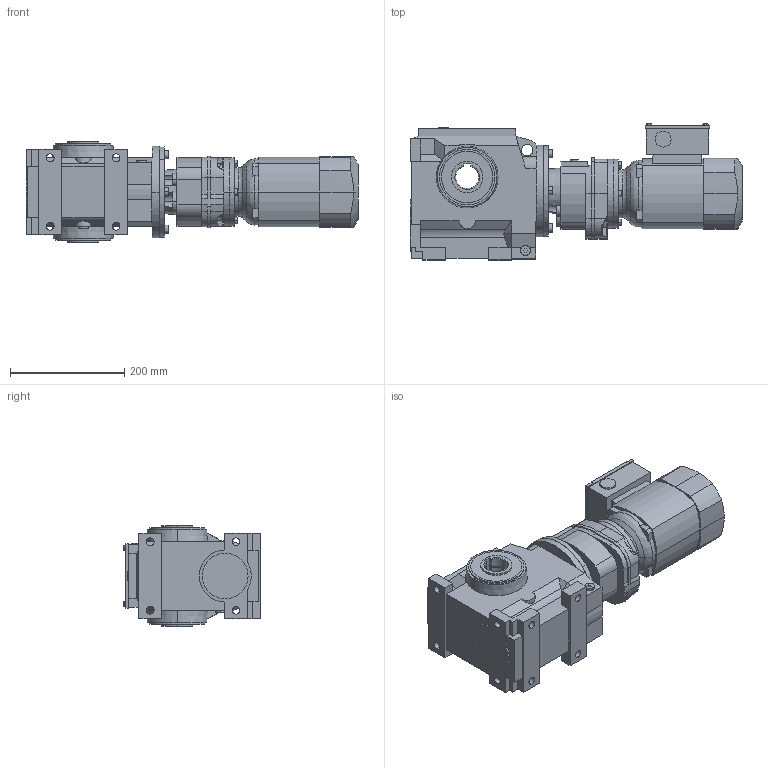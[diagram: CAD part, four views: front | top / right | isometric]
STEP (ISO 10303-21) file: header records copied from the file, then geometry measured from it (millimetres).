
FILE_DESCRIPTION(('STEP AP214'),'1');
FILE_NAME('STEP-File.stp','2018-01-01T00:00:00',(' '),('KEB'),' ','KEB-DRIVE',' ');
FILE_SCHEMA(('AUTOMOTIVE_DESIGN { 1 0 10303 214 1 1 1 1 }'));
Length unit declared in the file: millimetre
Products named in the file (12): s3a; wd_hw_40; wdh_slno; fp1-c3; g1b; ck1; dm71_kkn; kk08; PLUG_M25; ndm71; S32G12A DM71G4§CAD13
Assembly tree (11 placements, depth 2):
  S32G12A DM71G4§CAD13
    s3a
    wd_hw_40
    wdh_slno
    wdh_slno
    fp1-c3
    g1b
    ck1
    dm71_kkn
    kk08
    PLUG_M25
    ndm71
Bounding box: 580.5 x 238 x 175 mm (x, y, z)
Volume: 10888441.4 mm3; surface area: 715623.4 mm2
Topology: 11 solids, 11 shells, 553 faces, 1509 edges, 1079 vertices
Faces by surface type: plane 342, cylinder 148, cone 55, torus 4, extrusion 2, revolution 2
Entity records: 19539 total; most frequent: CARTESIAN_POINT 5711, ORIENTED_EDGE 3012, DIRECTION 2387, EDGE_CURVE 1506, VERTEX_POINT 1079, VECTOR 1000, LINE 998, AXIS2_PLACEMENT_3D 693
